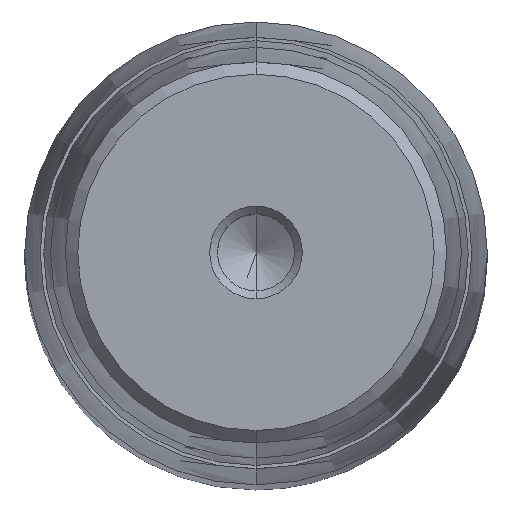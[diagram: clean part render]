
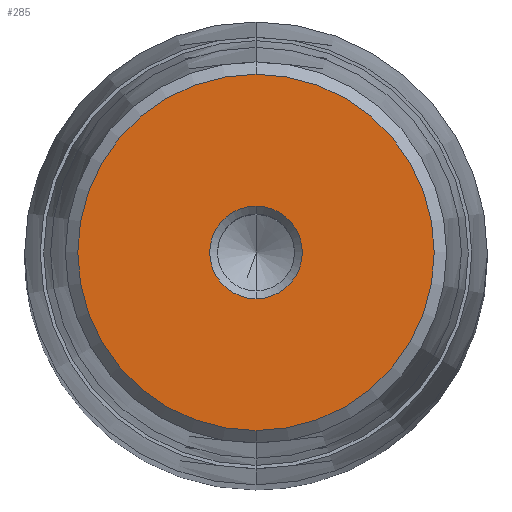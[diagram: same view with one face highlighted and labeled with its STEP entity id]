
A CAD part, top view. The second image highlights one B-rep face of the part: STEP entity #285.
In plain terms, the highlighted planar face has unit normal (0, 0, 1).
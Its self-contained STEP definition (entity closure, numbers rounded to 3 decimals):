
#164=CARTESIAN_POINT('Axis2P3D Location',(0.,0.,48.)) ;
#168=CARTESIAN_POINT('Vertex',(4.,0.,48.)) ;
#170=CARTESIAN_POINT('Vertex',(0.,-4.,48.)) ;
#173=CARTESIAN_POINT('Axis2P3D Location',(0.,0.,48.)) ;
#177=CARTESIAN_POINT('Vertex',(0.,4.,48.)) ;
#228=CARTESIAN_POINT('Axis2P3D Location',(0.,4.,48.)) ;
#233=CARTESIAN_POINT('Axis2P3D Location',(0.,0.,48.)) ;
#237=CARTESIAN_POINT('Vertex',(0.,15.4,48.)) ;
#239=CARTESIAN_POINT('Vertex',(15.4,0.,48.)) ;
#242=CARTESIAN_POINT('Axis2P3D Location',(0.,0.,48.)) ;
#246=CARTESIAN_POINT('Vertex',(-15.4,0.,48.)) ;
#249=CARTESIAN_POINT('Axis2P3D Location',(0.,0.,48.)) ;
#253=CARTESIAN_POINT('Vertex',(0.,-15.4,48.)) ;
#256=CARTESIAN_POINT('Axis2P3D Location',(0.,0.,48.)) ;
#267=CARTESIAN_POINT('Axis2P3D Location',(0.,0.,48.)) ;
#271=CARTESIAN_POINT('Vertex',(-4.,0.,48.)) ;
#274=CARTESIAN_POINT('Axis2P3D Location',(0.,0.,48.)) ;
#165=DIRECTION('Axis2P3D Direction',(-0.,0.,1.)) ;
#174=DIRECTION('Axis2P3D Direction',(-0.,0.,1.)) ;
#229=DIRECTION('Axis2P3D Direction',(0.,0.,-1.)) ;
#230=DIRECTION('Axis2P3D XDirection',(0.,1.,0.)) ;
#234=DIRECTION('Axis2P3D Direction',(0.,0.,-1.)) ;
#243=DIRECTION('Axis2P3D Direction',(0.,0.,-1.)) ;
#250=DIRECTION('Axis2P3D Direction',(0.,0.,-1.)) ;
#257=DIRECTION('Axis2P3D Direction',(0.,0.,-1.)) ;
#268=DIRECTION('Axis2P3D Direction',(0.,0.,-1.)) ;
#275=DIRECTION('Axis2P3D Direction',(0.,0.,-1.)) ;
#166=AXIS2_PLACEMENT_3D('Circle Axis2P3D',#164,#165,$) ;
#175=AXIS2_PLACEMENT_3D('Circle Axis2P3D',#173,#174,$) ;
#231=AXIS2_PLACEMENT_3D('Plane Axis2P3D',#228,#229,#230) ;
#235=AXIS2_PLACEMENT_3D('Circle Axis2P3D',#233,#234,$) ;
#244=AXIS2_PLACEMENT_3D('Circle Axis2P3D',#242,#243,$) ;
#251=AXIS2_PLACEMENT_3D('Circle Axis2P3D',#249,#250,$) ;
#258=AXIS2_PLACEMENT_3D('Circle Axis2P3D',#256,#257,$) ;
#269=AXIS2_PLACEMENT_3D('Circle Axis2P3D',#267,#268,$) ;
#276=AXIS2_PLACEMENT_3D('Circle Axis2P3D',#274,#275,$) ;
#262=ORIENTED_EDGE('',*,*,#241,.F.) ;
#263=ORIENTED_EDGE('',*,*,#248,.F.) ;
#264=ORIENTED_EDGE('',*,*,#255,.F.) ;
#265=ORIENTED_EDGE('',*,*,#260,.F.) ;
#280=ORIENTED_EDGE('',*,*,#172,.T.) ;
#281=ORIENTED_EDGE('',*,*,#273,.T.) ;
#282=ORIENTED_EDGE('',*,*,#278,.T.) ;
#283=ORIENTED_EDGE('',*,*,#179,.T.) ;
#284=FACE_BOUND('',#279,.T.) ;
#285=ADVANCED_FACE('722-40x280x313',(#266,#284),#232,.F.) ;
#167=CIRCLE('generated circle',#166,4.) ;
#176=CIRCLE('generated circle',#175,4.) ;
#236=CIRCLE('generated circle',#235,15.4) ;
#245=CIRCLE('generated circle',#244,15.4) ;
#252=CIRCLE('generated circle',#251,15.4) ;
#259=CIRCLE('generated circle',#258,15.4) ;
#270=CIRCLE('generated circle',#269,4.) ;
#277=CIRCLE('generated circle',#276,4.) ;
#172=EDGE_CURVE('',#169,#171,#167,.F.) ;
#179=EDGE_CURVE('',#178,#169,#176,.F.) ;
#241=EDGE_CURVE('',#238,#240,#236,.T.) ;
#248=EDGE_CURVE('',#247,#238,#245,.T.) ;
#255=EDGE_CURVE('',#254,#247,#252,.T.) ;
#260=EDGE_CURVE('',#240,#254,#259,.T.) ;
#273=EDGE_CURVE('',#171,#272,#270,.T.) ;
#278=EDGE_CURVE('',#272,#178,#277,.T.) ;
#261=EDGE_LOOP('',(#262,#263,#264,#265)) ;
#279=EDGE_LOOP('',(#280,#281,#282,#283)) ;
#266=FACE_OUTER_BOUND('',#261,.T.) ;
#232=PLANE('Plane',#231) ;
#169=VERTEX_POINT('',#168) ;
#171=VERTEX_POINT('',#170) ;
#178=VERTEX_POINT('',#177) ;
#238=VERTEX_POINT('',#237) ;
#240=VERTEX_POINT('',#239) ;
#247=VERTEX_POINT('',#246) ;
#254=VERTEX_POINT('',#253) ;
#272=VERTEX_POINT('',#271) ;
